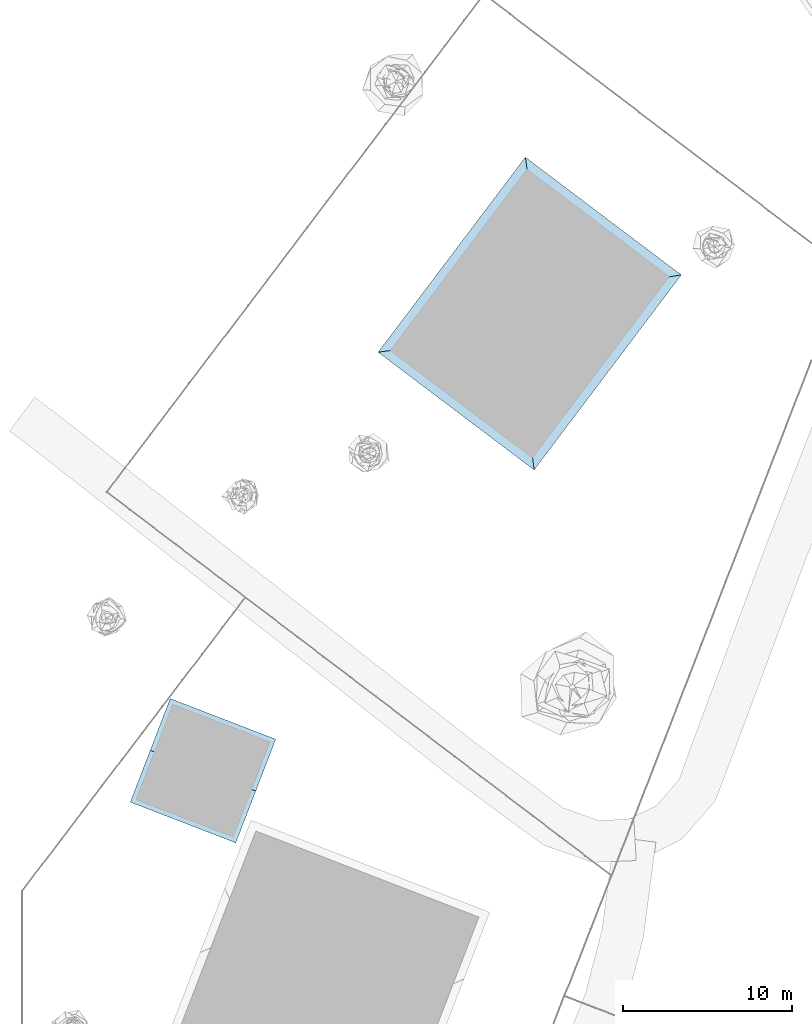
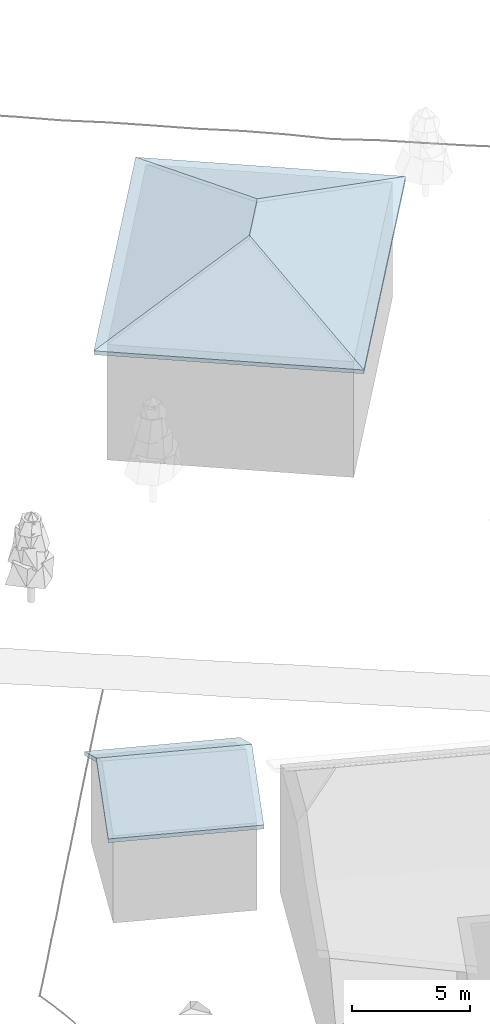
# Not in any storey, part 8 of 88: 2 roofs.
"""IFC4 building model written with IfcOpenShell, lengths in metres."""

from ifc_helpers import new_model, si_unit, origin_with_axes, place, context, subcontext, project, spatial, faceted_brep, element, save


model = new_model("IFC4")

# Units and contexts
model_context = context("Model", 3, precision=1e-05, world=origin_with_axes())
body_context = subcontext(model_context, "Body", "Model", "MODEL_VIEW")
ifc_project = project(units=[si_unit("LENGTHUNIT", "METRE"), si_unit("AREAUNIT", "SQUARE_METRE"), si_unit("VOLUMEUNIT", "CUBIC_METRE"), si_unit("PLANEANGLEUNIT", "RADIAN")], contexts=[model_context])

# Sites, building
site_1_placement = place(None, origin_with_axes())
site_1 = spatial("IfcSite", under=ifc_project, at=site_1_placement, Name="CH907857693633", CompositionType="ELEMENT")
site_2_placement = place(None, origin_with_axes())
site_2 = spatial("IfcSite", under=site_1, at=site_2_placement, Name="Buildings", CompositionType="ELEMENT")
building_1_placement = place(None, origin_with_axes())
building_1 = spatial("IfcBuilding", under=site_2, at=building_1_placement, Name="Building_00CCDBD0", CompositionType="ELEMENT")

# Roof
roof_1_placement = place(building_1_placement, origin_with_axes())
element("IfcRoof", 1, at=roof_1_placement, inside=building_1, Name="Building_00CCDBD0_Roof", PredefinedType="NOTDEFINED", context=body_context, shape_type="Brep", body=[
    faceted_brep([(13.8480000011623, 105.25, 7.8567877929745), (13.1719999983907, 108.153999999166, 6.41288779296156), (12.5799999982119, 106.620000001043, 7.37478779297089), (9.45399999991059, 107.826000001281, 7.37478779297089), (8.77800000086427, 110.730000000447, 5.93288779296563), (8.18600000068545, 109.195999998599, 6.89278779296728), (8.77800000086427, 110.730000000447, 5.93288779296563), (9.45399999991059, 107.826000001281, 7.37478779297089), (10.0460000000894, 109.359999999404, 6.41288779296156), (11.9880000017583, 105.085999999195, 7.37478779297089), (12.6620000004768, 102.18200000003, 5.93288779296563), (13.2560000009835, 103.715999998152, 6.89278779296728), (12.6620000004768, 102.18200000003, 5.93288779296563), (11.9880000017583, 105.085999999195, 7.37478779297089), (11.3960000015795, 103.552000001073, 6.41288779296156), (6.41000000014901, 104.594000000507, 5.93288779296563), (8.86199999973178, 106.291999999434, 7.37478779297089), (7.00400000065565, 106.127999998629, 6.89278779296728), (13.8480000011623, 105.25, 7.8567877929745), (13.8480000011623, 105.25, 7.65478779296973), (14.4400000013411, 106.784000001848, 6.89278779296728), (15.0320000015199, 108.31799999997, 5.73288779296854), (15.0320000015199, 108.31799999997, 5.93288779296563), (14.4400000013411, 106.784000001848, 6.69478779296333), (11.9059999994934, 109.524000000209, 5.83088779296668), (8.77800000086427, 110.730000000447, 5.93288779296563), (11.9059999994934, 109.524000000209, 5.93288779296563), (11.9059999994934, 109.524000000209, 5.83088779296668), (11.9059999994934, 109.524000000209, 5.73288779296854), (8.77800000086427, 110.730000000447, 5.73288779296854), (8.77800000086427, 110.730000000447, 5.93288779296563), (11.9059999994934, 109.524000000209, 5.83088779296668), (8.77800000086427, 110.730000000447, 5.73288779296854), (11.9059999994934, 109.524000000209, 5.83088779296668), (11.9059999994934, 109.524000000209, 5.93288779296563), (15.0320000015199, 108.31799999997, 5.93288779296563), (11.9059999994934, 109.524000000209, 5.83088779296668), (15.0320000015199, 108.31799999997, 5.73288779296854), (11.9059999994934, 109.524000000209, 5.73288779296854), (15.0320000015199, 108.31799999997, 5.73288779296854), (11.9059999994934, 109.524000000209, 5.83088779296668), (15.0320000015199, 108.31799999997, 5.93288779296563), (8.77800000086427, 110.730000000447, 5.93288779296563), (7.59600000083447, 107.662000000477, 7.65478779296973), (8.18600000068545, 109.195999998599, 6.89278779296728), (7.59600000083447, 107.662000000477, 7.65478779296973), (8.77800000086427, 110.730000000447, 5.93288779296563), (8.18600000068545, 109.195999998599, 6.69488779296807), (6.41000000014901, 104.594000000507, 5.93288779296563), (7.00400000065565, 106.127999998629, 6.69488779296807), (6.41200000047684, 104.594000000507, 5.73288779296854), (7.00400000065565, 106.127999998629, 6.69488779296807), (6.41000000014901, 104.594000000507, 5.93288779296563), (7.59600000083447, 107.662000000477, 7.65478779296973), (7.00400000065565, 106.127999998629, 6.89278779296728), (7.59600000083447, 107.662000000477, 7.65478779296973), (6.41000000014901, 104.594000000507, 5.93288779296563), (7.59600000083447, 107.662000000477, 7.65478779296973), (7.00400000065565, 106.127999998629, 6.89278779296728), (7.59600000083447, 107.662000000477, 7.8567877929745), (9.5379999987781, 103.388000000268, 5.93288779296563), (9.5379999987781, 103.388000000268, 5.83088779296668), (12.6620000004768, 102.18200000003, 5.93288779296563), (9.5379999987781, 103.388000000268, 5.83088779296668), (12.6620000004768, 102.18200000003, 5.73288779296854), (12.6620000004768, 102.18200000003, 5.93288779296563), (12.6620000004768, 102.18200000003, 5.73288779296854), (9.5379999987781, 103.388000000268, 5.83088779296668), (9.5379999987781, 103.388000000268, 5.73288779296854), (9.5379999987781, 103.388000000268, 5.83088779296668), (6.41000000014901, 104.594000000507, 5.93288779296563), (6.41200000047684, 104.594000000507, 5.73288779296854), (9.5379999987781, 103.388000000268, 5.73288779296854), (9.5379999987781, 103.388000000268, 5.83088779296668), (6.41200000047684, 104.594000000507, 5.73288779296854), (6.41000000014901, 104.594000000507, 5.93288779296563), (9.5379999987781, 103.388000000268, 5.83088779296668), (9.5379999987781, 103.388000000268, 5.93288779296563), (13.2560000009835, 103.715999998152, 6.69478779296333), (12.6620000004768, 102.18200000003, 5.93288779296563), (12.6620000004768, 102.18200000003, 5.73288779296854), (13.8480000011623, 105.25, 7.65478779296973), (13.2560000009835, 103.715999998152, 6.89278779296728), (12.6620000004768, 102.18200000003, 5.93288779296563), (12.6620000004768, 102.18200000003, 5.93288779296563), (13.2560000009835, 103.715999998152, 6.69478779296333), (13.8480000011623, 105.25, 7.65478779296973), (13.2560000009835, 103.715999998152, 6.89278779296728), (13.8480000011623, 105.25, 7.65478779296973), (13.8480000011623, 105.25, 7.8567877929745), (12.5799999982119, 106.620000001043, 7.1747877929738), (11.3139999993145, 107.989999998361, 6.69478779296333), (13.1719999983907, 108.153999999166, 6.21288779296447), (11.9059999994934, 109.524000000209, 5.73288779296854), (13.1719999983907, 108.153999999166, 6.21288779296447), (11.3139999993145, 107.989999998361, 6.69478779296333), (11.3139999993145, 107.989999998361, 6.69478779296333), (10.7219999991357, 106.456000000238, 7.65478779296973), (9.45399999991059, 107.826000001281, 7.1747877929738), (10.1279999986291, 104.921999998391, 6.69478779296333), (10.7219999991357, 106.456000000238, 7.65478779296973), (11.9880000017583, 105.085999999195, 7.1747877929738), (8.86199999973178, 106.291999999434, 7.1747877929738), (10.1279999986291, 104.921999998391, 6.69478779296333), (8.26999999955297, 104.758000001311, 6.21288779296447), (9.5379999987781, 103.388000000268, 5.73288779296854), (8.26999999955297, 104.758000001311, 6.21288779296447), (10.1279999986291, 104.921999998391, 6.69478779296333), (11.3139999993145, 107.989999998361, 6.89278779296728), (11.9059999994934, 109.524000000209, 5.93288779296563), (10.0460000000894, 109.359999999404, 6.41288779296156), (11.3139999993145, 107.989999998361, 6.89278779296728), (10.7219999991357, 106.456000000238, 7.8567877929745), (12.5799999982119, 106.620000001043, 7.37478779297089), (13.8480000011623, 105.25, 7.65478779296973), (13.1719999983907, 108.153999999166, 6.21288779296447), (14.4400000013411, 106.784000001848, 6.69478779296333), (8.77800000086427, 110.730000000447, 5.73288779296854), (9.45399999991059, 107.826000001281, 7.1747877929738), (8.18600000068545, 109.195999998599, 6.69488779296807), (9.45399999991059, 107.826000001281, 7.1747877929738), (8.77800000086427, 110.730000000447, 5.73288779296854), (10.0460000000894, 109.359999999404, 6.21288779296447), (10.1279999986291, 104.921999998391, 6.89278779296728), (10.7219999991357, 106.456000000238, 7.8567877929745), (8.86199999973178, 106.291999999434, 7.37478779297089), (10.1279999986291, 104.921999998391, 6.89278779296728), (9.5379999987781, 103.388000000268, 5.93288779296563), (11.3960000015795, 103.552000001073, 6.41288779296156), (11.9880000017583, 105.085999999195, 7.1747877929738), (12.6620000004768, 102.18200000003, 5.73288779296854), (11.3960000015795, 103.552000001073, 6.21288779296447), (12.6620000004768, 102.18200000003, 5.73288779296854), (11.9880000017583, 105.085999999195, 7.1747877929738), (13.2560000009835, 103.715999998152, 6.69478779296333), (6.41200000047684, 104.594000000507, 5.73288779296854), (8.86199999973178, 106.291999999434, 7.1747877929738), (8.26999999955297, 104.758000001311, 6.21288779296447), (15.0320000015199, 108.31799999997, 5.93288779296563), (11.9059999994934, 109.524000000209, 5.93288779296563), (13.1719999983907, 108.153999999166, 6.41288779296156), (8.77800000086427, 110.730000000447, 5.73288779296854), (11.9059999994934, 109.524000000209, 5.73288779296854), (10.0460000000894, 109.359999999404, 6.21288779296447), (7.59600000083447, 107.662000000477, 7.8567877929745), (10.7219999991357, 106.456000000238, 7.8567877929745), (9.45399999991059, 107.826000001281, 7.37478779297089), (13.8480000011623, 105.25, 7.8567877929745), (10.7219999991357, 106.456000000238, 7.8567877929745), (11.9880000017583, 105.085999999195, 7.37478779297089), (13.8480000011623, 105.25, 7.65478779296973), (10.7219999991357, 106.456000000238, 7.65478779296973), (12.5799999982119, 106.620000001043, 7.1747877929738), (7.59600000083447, 107.662000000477, 7.65478779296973), (10.7219999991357, 106.456000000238, 7.65478779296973), (8.86199999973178, 106.291999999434, 7.1747877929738), (6.41000000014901, 104.594000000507, 5.93288779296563), (9.5379999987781, 103.388000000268, 5.93288779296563), (8.26999999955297, 104.758000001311, 6.41288779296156), (12.6620000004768, 102.18200000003, 5.73288779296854), (9.5379999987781, 103.388000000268, 5.73288779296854), (11.3960000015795, 103.552000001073, 6.21288779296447), (13.8480000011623, 105.25, 7.8567877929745), (11.9880000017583, 105.085999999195, 7.37478779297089), (13.2560000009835, 103.715999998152, 6.89278779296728), (10.7219999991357, 106.456000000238, 7.8567877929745), (10.1279999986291, 104.921999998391, 6.89278779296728), (11.9880000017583, 105.085999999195, 7.37478779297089), (10.7219999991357, 106.456000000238, 7.65478779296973), (13.8480000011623, 105.25, 7.65478779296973), (11.9880000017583, 105.085999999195, 7.1747877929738), (10.1279999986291, 104.921999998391, 6.69478779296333), (11.9880000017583, 105.085999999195, 7.1747877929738), (11.3960000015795, 103.552000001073, 6.21288779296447), (7.59600000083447, 107.662000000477, 7.8567877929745), (9.45399999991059, 107.826000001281, 7.37478779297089), (8.18600000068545, 109.195999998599, 6.89278779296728), (10.7219999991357, 106.456000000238, 7.8567877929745), (11.3139999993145, 107.989999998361, 6.89278779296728), (9.45399999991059, 107.826000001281, 7.37478779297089), (10.7219999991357, 106.456000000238, 7.65478779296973), (7.59600000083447, 107.662000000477, 7.65478779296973), (9.45399999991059, 107.826000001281, 7.1747877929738), (11.3139999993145, 107.989999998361, 6.69478779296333), (9.45399999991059, 107.826000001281, 7.1747877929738), (10.0460000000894, 109.359999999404, 6.21288779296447), (15.0320000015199, 108.31799999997, 5.93288779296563), (13.1719999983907, 108.153999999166, 6.41288779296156), (14.4400000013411, 106.784000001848, 6.89278779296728), (11.3139999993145, 107.989999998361, 6.89278779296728), (12.5799999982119, 106.620000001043, 7.37478779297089), (13.1719999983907, 108.153999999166, 6.41288779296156), (13.1719999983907, 108.153999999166, 6.41288779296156), (11.9059999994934, 109.524000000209, 5.93288779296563), (11.3139999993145, 107.989999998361, 6.89278779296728), (11.9059999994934, 109.524000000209, 5.73288779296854), (15.0320000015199, 108.31799999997, 5.73288779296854), (13.1719999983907, 108.153999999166, 6.21288779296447), (13.1719999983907, 108.153999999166, 6.21288779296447), (13.8480000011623, 105.25, 7.65478779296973), (12.5799999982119, 106.620000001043, 7.1747877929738), (10.7219999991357, 106.456000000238, 7.65478779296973), (11.3139999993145, 107.989999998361, 6.69478779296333), (12.5799999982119, 106.620000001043, 7.1747877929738), (10.7219999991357, 106.456000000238, 7.8567877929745), (13.8480000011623, 105.25, 7.8567877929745), (12.5799999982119, 106.620000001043, 7.37478779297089), (11.9059999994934, 109.524000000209, 5.93288779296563), (8.77800000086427, 110.730000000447, 5.93288779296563), (10.0460000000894, 109.359999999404, 6.41288779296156), (9.45399999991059, 107.826000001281, 7.37478779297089), (11.3139999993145, 107.989999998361, 6.89278779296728), (10.0460000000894, 109.359999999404, 6.41288779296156), (11.9059999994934, 109.524000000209, 5.73288779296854), (11.3139999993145, 107.989999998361, 6.69478779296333), (10.0460000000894, 109.359999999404, 6.21288779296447), (9.5379999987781, 103.388000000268, 5.73288779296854), (10.1279999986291, 104.921999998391, 6.69478779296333), (11.3960000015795, 103.552000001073, 6.21288779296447), (10.7219999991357, 106.456000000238, 7.8567877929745), (7.59600000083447, 107.662000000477, 7.8567877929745), (8.86199999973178, 106.291999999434, 7.37478779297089), (8.26999999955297, 104.758000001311, 6.41288779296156), (9.5379999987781, 103.388000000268, 5.93288779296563), (10.1279999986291, 104.921999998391, 6.89278779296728), (10.1279999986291, 104.921999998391, 6.89278779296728), (8.86199999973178, 106.291999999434, 7.37478779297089), (8.26999999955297, 104.758000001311, 6.41288779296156), (11.9880000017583, 105.085999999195, 7.37478779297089), (10.1279999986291, 104.921999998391, 6.89278779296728), (11.3960000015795, 103.552000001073, 6.41288779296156), (9.5379999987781, 103.388000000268, 5.93288779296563), (12.6620000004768, 102.18200000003, 5.93288779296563), (11.3960000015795, 103.552000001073, 6.41288779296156), (10.7219999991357, 106.456000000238, 7.65478779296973), (10.1279999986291, 104.921999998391, 6.69478779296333), (8.86199999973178, 106.291999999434, 7.1747877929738), (7.59600000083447, 107.662000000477, 7.65478779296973), (8.86199999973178, 106.291999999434, 7.1747877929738), (7.00400000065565, 106.127999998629, 6.69488779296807), (8.86199999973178, 106.291999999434, 7.37478779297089), (6.41000000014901, 104.594000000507, 5.93288779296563), (8.26999999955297, 104.758000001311, 6.41288779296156), (9.5379999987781, 103.388000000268, 5.73288779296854), (6.41200000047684, 104.594000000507, 5.73288779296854), (8.26999999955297, 104.758000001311, 6.21288779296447), (11.9880000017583, 105.085999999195, 7.1747877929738), (13.8480000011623, 105.25, 7.65478779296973), (13.2560000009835, 103.715999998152, 6.69478779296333), (7.59600000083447, 107.662000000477, 7.65478779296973), (7.59600000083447, 107.662000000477, 7.8567877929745), (8.18600000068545, 109.195999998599, 6.89278779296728), (8.77800000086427, 110.730000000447, 5.93288779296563), (8.77800000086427, 110.730000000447, 5.73288779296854), (8.18600000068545, 109.195999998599, 6.69488779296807), (9.45399999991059, 107.826000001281, 7.1747877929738), (7.59600000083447, 107.662000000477, 7.65478779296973), (8.18600000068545, 109.195999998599, 6.69488779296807), (13.1719999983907, 108.153999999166, 6.41288779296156), (13.8480000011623, 105.25, 7.8567877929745), (14.4400000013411, 106.784000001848, 6.89278779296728), (13.8480000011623, 105.25, 7.65478779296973), (15.0320000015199, 108.31799999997, 5.93288779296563), (14.4400000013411, 106.784000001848, 6.89278779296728), (8.86199999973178, 106.291999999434, 7.37478779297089), (7.59600000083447, 107.662000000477, 7.8567877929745), (7.00400000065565, 106.127999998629, 6.89278779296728), (15.0320000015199, 108.31799999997, 5.93288779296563), (13.8480000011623, 105.25, 7.65478779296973), (14.4400000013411, 106.784000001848, 6.69478779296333), (13.1719999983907, 108.153999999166, 6.21288779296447), (15.0320000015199, 108.31799999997, 5.73288779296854), (14.4400000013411, 106.784000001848, 6.69478779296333), (8.86199999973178, 106.291999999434, 7.1747877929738), (6.41200000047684, 104.594000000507, 5.73288779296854), (7.00400000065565, 106.127999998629, 6.69488779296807)], [[[0, 1, 2]], [[3, 4, 5]], [[6, 7, 8]], [[9, 10, 11]], [[12, 13, 14]], [[15, 16, 17]], [[18, 19, 20]], [[21, 22, 23]], [[24, 25, 26]], [[27, 28, 29]], [[30, 31, 32]], [[33, 34, 35]], [[36, 37, 38]], [[39, 40, 41]], [[42, 43, 44]], [[45, 46, 47]], [[48, 49, 50]], [[51, 52, 53]], [[54, 55, 56]], [[57, 58, 59]], [[60, 61, 62]], [[63, 64, 65]], [[66, 67, 68]], [[69, 70, 71]], [[72, 73, 74]], [[75, 76, 77]], [[78, 79, 80]], [[81, 82, 83]], [[84, 85, 86]], [[87, 88, 89]], [[90, 91, 92]], [[93, 94, 95]], [[96, 97, 98]], [[99, 100, 101]], [[102, 103, 104]], [[105, 106, 107]], [[108, 109, 110]], [[111, 112, 113]], [[114, 115, 116]], [[117, 118, 119]], [[120, 121, 122]], [[123, 124, 125]], [[126, 127, 128]], [[129, 130, 131]], [[132, 133, 134]], [[135, 136, 137]], [[138, 139, 140]], [[141, 142, 143]], [[144, 145, 146]], [[147, 148, 149]], [[150, 151, 152]], [[153, 154, 155]], [[156, 157, 158]], [[159, 160, 161]], [[162, 163, 164]], [[165, 166, 167]], [[168, 169, 170]], [[171, 172, 173]], [[174, 175, 176]], [[177, 178, 179]], [[180, 181, 182]], [[183, 184, 185]], [[186, 187, 188]], [[189, 190, 191]], [[192, 193, 194]], [[195, 196, 197]], [[198, 199, 200]], [[201, 202, 203]], [[204, 205, 206]], [[207, 208, 209]], [[210, 211, 212]], [[213, 214, 215]], [[216, 217, 218]], [[219, 220, 221]], [[222, 223, 224]], [[225, 226, 227]], [[228, 229, 230]], [[231, 232, 233]], [[234, 235, 236]], [[237, 238, 239]], [[240, 241, 242]], [[243, 244, 245]], [[246, 247, 248]], [[249, 250, 251]], [[252, 253, 254]], [[255, 256, 257]], [[258, 259, 260]], [[261, 262, 263]], [[264, 265, 266]], [[267, 268, 269]], [[270, 271, 272]], [[273, 274, 275]]]),
])

# Building
building_2_placement = place(None, origin_with_axes())
building_2 = spatial("IfcBuilding", under=site_2, at=building_2_placement, Name="Building_A8D2A459", CompositionType="ELEMENT")

# Roof
roof_2_placement = place(building_2_placement, origin_with_axes())
element("IfcRoof", 2, at=roof_2_placement, inside=building_2, Name="Building_A8D2A459_Roof", PredefinedType="NOTDEFINED", context=body_context, shape_type="Brep", body=[
    faceted_brep([(31.015000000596, 134.526999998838, 12.4143877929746), (34.4329999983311, 139.311000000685, 9.98258779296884), (30.4149999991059, 138.662999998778, 11.1984877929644), (31.015000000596, 134.526999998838, 12.4143877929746), (34.6929999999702, 130.045000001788, 9.98258779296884), (35.0329999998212, 135.175000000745, 11.1984877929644), (31.015000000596, 134.526999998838, 12.4143877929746), (25.4530000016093, 137.02100000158, 9.98258779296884), (26.0529999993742, 132.885000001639, 11.1984877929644), (29.3729999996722, 132.355000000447, 12.4143877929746), (25.7129999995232, 127.756999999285, 9.98258779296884), (29.8530000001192, 128.311000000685, 11.1984877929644), (29.3729999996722, 132.355000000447, 12.4143877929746), (26.0529999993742, 132.885000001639, 11.1984877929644), (25.2329999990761, 131.798999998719, 11.1984877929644), (31.015000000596, 134.526999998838, 12.4143877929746), (29.3729999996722, 132.355000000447, 12.4143877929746), (30.6730000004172, 129.396999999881, 11.1984877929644), (34.4329999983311, 139.311000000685, 9.88058779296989), (29.8150000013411, 142.798999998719, 9.98258779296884), (34.4329999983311, 139.311000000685, 9.98258779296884), (34.4329999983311, 139.311000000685, 9.88058779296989), (34.4329999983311, 139.311000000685, 9.78258779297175), (29.8150000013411, 142.798999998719, 9.78258779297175), (29.8150000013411, 142.798999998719, 9.98258779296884), (34.4329999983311, 139.311000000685, 9.88058779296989), (29.8150000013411, 142.798999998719, 9.78258779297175), (34.4329999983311, 139.311000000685, 9.88058779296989), (34.4329999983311, 139.311000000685, 9.98258779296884), (39.0529999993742, 135.822999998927, 9.98248779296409), (34.4329999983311, 139.311000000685, 9.88058779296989), (39.0529999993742, 135.822999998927, 9.78258779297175), (34.4329999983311, 139.311000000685, 9.78258779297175), (39.0529999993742, 135.822999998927, 9.78258779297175), (34.4329999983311, 139.311000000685, 9.88058779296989), (39.0529999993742, 135.822999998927, 9.98248779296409), (21.0929999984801, 131.245000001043, 9.98258779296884), (25.4530000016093, 137.02100000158, 9.88058779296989), (21.0929999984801, 131.245000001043, 9.78258779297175), (25.4530000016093, 137.02100000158, 9.78258779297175), (21.0929999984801, 131.245000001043, 9.78258779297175), (25.4530000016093, 137.02100000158, 9.88058779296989), (25.4530000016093, 137.02100000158, 9.88058779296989), (21.0929999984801, 131.245000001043, 9.98258779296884), (25.4530000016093, 137.02100000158, 9.98258779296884), (29.8150000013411, 142.798999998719, 9.78258779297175), (25.4530000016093, 137.02100000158, 9.88058779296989), (29.8150000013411, 142.798999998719, 9.98258779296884), (25.4530000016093, 137.02100000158, 9.98258779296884), (29.8150000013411, 142.798999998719, 9.98258779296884), (25.4530000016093, 137.02100000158, 9.88058779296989), (25.4530000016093, 137.02100000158, 9.88058779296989), (29.8150000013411, 142.798999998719, 9.78258779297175), (25.4530000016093, 137.02100000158, 9.78258779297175), (25.7129999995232, 127.756999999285, 9.78258779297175), (25.7129999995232, 127.756999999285, 9.88058779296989), (21.0929999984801, 131.245000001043, 9.78258779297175), (25.7129999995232, 127.756999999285, 9.88058779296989), (30.3330000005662, 124.269000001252, 9.78258779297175), (30.3330000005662, 124.269000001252, 9.98258779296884), (21.0929999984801, 131.245000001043, 9.98258779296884), (25.7129999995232, 127.756999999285, 9.88058779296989), (25.7129999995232, 127.756999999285, 9.98258779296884), (25.7129999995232, 127.756999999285, 9.98258779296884), (25.7129999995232, 127.756999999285, 9.88058779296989), (30.3330000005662, 124.269000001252, 9.98258779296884), (30.3330000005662, 124.269000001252, 9.78258779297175), (25.7129999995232, 127.756999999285, 9.88058779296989), (25.7129999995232, 127.756999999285, 9.78258779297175), (25.7129999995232, 127.756999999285, 9.88058779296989), (21.0929999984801, 131.245000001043, 9.98258779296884), (21.0929999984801, 131.245000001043, 9.78258779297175), (30.3330000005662, 124.269000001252, 9.78258779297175), (34.6929999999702, 130.045000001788, 9.78258779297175), (34.6929999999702, 130.045000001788, 9.88058779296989), (30.3330000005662, 124.269000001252, 9.98258779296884), (34.6929999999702, 130.045000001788, 9.88058779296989), (34.6929999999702, 130.045000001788, 9.98258779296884), (39.0529999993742, 135.822999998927, 9.98248779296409), (34.6929999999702, 130.045000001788, 9.98258779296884), (34.6929999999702, 130.045000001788, 9.88058779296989), (34.6929999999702, 130.045000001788, 9.88058779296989), (39.0529999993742, 135.822999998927, 9.78258779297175), (39.0529999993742, 135.822999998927, 9.98248779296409), (39.0529999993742, 135.822999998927, 9.78258779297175), (34.6929999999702, 130.045000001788, 9.88058779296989), (34.6929999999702, 130.045000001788, 9.78258779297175), (34.6929999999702, 130.045000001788, 9.88058779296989), (30.3330000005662, 124.269000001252, 9.98258779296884), (30.3330000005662, 124.269000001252, 9.78258779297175), (31.015000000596, 134.526999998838, 12.214387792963), (34.4329999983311, 139.311000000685, 9.78258779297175), (35.0329999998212, 135.175000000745, 10.9984877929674), (31.015000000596, 134.526999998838, 12.214387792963), (34.6929999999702, 130.045000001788, 9.78258779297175), (30.6730000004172, 129.396999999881, 10.9984877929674), (31.015000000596, 134.526999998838, 12.214387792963), (25.4530000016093, 137.02100000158, 9.78258779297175), (30.4149999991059, 138.662999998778, 10.9984877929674), (29.3729999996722, 132.355000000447, 12.214387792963), (25.7129999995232, 127.756999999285, 9.78258779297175), (25.2329999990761, 131.798999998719, 10.9984877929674), (31.015000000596, 134.526999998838, 12.214387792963), (29.3729999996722, 132.355000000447, 12.214387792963), (26.0529999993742, 132.885000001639, 10.9984877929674), (29.3729999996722, 132.355000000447, 12.214387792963), (30.6730000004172, 129.396999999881, 10.9984877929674), (29.8530000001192, 128.311000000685, 10.9984877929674), (39.0529999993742, 135.822999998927, 9.98248779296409), (35.0329999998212, 135.175000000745, 11.1984877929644), (34.6929999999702, 130.045000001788, 9.98258779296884), (34.6929999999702, 130.045000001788, 9.98258779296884), (30.6730000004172, 129.396999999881, 11.1984877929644), (30.3330000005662, 124.269000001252, 9.98258779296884), (29.8150000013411, 142.798999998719, 9.98258779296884), (25.4530000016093, 137.02100000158, 9.98258779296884), (30.4149999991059, 138.662999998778, 11.1984877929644), (21.0929999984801, 131.245000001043, 9.78258779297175), (25.4530000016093, 137.02100000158, 9.78258779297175), (26.0529999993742, 132.885000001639, 10.9984877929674), (30.6730000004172, 129.396999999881, 10.9984877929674), (34.6929999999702, 130.045000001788, 9.78258779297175), (30.3330000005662, 124.269000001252, 9.78258779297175), (35.0329999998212, 135.175000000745, 10.9984877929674), (39.0529999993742, 135.822999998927, 9.78258779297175), (34.6929999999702, 130.045000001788, 9.78258779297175), (39.0529999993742, 135.822999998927, 9.98248779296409), (34.4329999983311, 139.311000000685, 9.98258779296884), (35.0329999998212, 135.175000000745, 11.1984877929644), (30.3330000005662, 124.269000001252, 9.98258779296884), (29.8530000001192, 128.311000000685, 11.1984877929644), (25.7129999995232, 127.756999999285, 9.98258779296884), (25.7129999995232, 127.756999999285, 9.98258779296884), (25.2329999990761, 131.798999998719, 11.1984877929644), (21.0929999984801, 131.245000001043, 9.98258779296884), (29.8150000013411, 142.798999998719, 9.78258779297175), (34.4329999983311, 139.311000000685, 9.78258779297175), (30.4149999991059, 138.662999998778, 10.9984877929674), (25.2329999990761, 131.798999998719, 10.9984877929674), (25.7129999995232, 127.756999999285, 9.78258779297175), (21.0929999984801, 131.245000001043, 9.78258779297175), (29.8530000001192, 128.311000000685, 10.9984877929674), (30.3330000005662, 124.269000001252, 9.78258779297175), (25.7129999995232, 127.756999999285, 9.78258779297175), (25.4530000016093, 137.02100000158, 9.98258779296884), (21.0929999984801, 131.245000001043, 9.98258779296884), (26.0529999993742, 132.885000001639, 11.1984877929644), (29.3729999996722, 132.355000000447, 12.4143877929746), (31.015000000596, 134.526999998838, 12.4143877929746), (26.0529999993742, 132.885000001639, 11.1984877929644), (25.4530000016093, 137.02100000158, 9.78258779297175), (31.015000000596, 134.526999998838, 12.214387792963), (26.0529999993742, 132.885000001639, 10.9984877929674), (21.0929999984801, 131.245000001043, 9.78258779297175), (26.0529999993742, 132.885000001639, 10.9984877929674), (25.2329999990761, 131.798999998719, 10.9984877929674), (34.6929999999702, 130.045000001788, 9.98258779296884), (31.015000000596, 134.526999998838, 12.4143877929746), (30.6730000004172, 129.396999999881, 11.1984877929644), (30.3330000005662, 124.269000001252, 9.98258779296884), (30.6730000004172, 129.396999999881, 11.1984877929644), (29.8530000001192, 128.311000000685, 11.1984877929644), (29.3729999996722, 132.355000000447, 12.214387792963), (31.015000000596, 134.526999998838, 12.214387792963), (30.6730000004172, 129.396999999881, 10.9984877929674), (34.4329999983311, 139.311000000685, 9.98258779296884), (29.8150000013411, 142.798999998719, 9.98258779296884), (30.4149999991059, 138.662999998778, 11.1984877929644), (25.4530000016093, 137.02100000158, 9.98258779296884), (31.015000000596, 134.526999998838, 12.4143877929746), (30.4149999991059, 138.662999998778, 11.1984877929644), (34.4329999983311, 139.311000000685, 9.78258779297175), (31.015000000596, 134.526999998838, 12.214387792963), (30.4149999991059, 138.662999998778, 10.9984877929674), (25.4530000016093, 137.02100000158, 9.78258779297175), (29.8150000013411, 142.798999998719, 9.78258779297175), (30.4149999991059, 138.662999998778, 10.9984877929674), (25.7129999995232, 127.756999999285, 9.98258779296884), (29.3729999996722, 132.355000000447, 12.4143877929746), (25.2329999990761, 131.798999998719, 11.1984877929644), (26.0529999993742, 132.885000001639, 11.1984877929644), (21.0929999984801, 131.245000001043, 9.98258779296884), (25.2329999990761, 131.798999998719, 11.1984877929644), (26.0529999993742, 132.885000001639, 10.9984877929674), (29.3729999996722, 132.355000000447, 12.214387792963), (25.2329999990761, 131.798999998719, 10.9984877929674), (34.4329999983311, 139.311000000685, 9.98258779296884), (31.015000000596, 134.526999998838, 12.4143877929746), (35.0329999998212, 135.175000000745, 11.1984877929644), (34.4329999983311, 139.311000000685, 9.78258779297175), (39.0529999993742, 135.822999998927, 9.78258779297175), (35.0329999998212, 135.175000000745, 10.9984877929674), (34.6929999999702, 130.045000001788, 9.78258779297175), (31.015000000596, 134.526999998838, 12.214387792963), (35.0329999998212, 135.175000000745, 10.9984877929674), (30.6730000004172, 129.396999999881, 11.1984877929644), (29.3729999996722, 132.355000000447, 12.4143877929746), (29.8530000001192, 128.311000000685, 11.1984877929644), (25.7129999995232, 127.756999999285, 9.78258779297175), (29.3729999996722, 132.355000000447, 12.214387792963), (29.8530000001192, 128.311000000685, 10.9984877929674), (30.6730000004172, 129.396999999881, 10.9984877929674), (30.3330000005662, 124.269000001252, 9.78258779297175), (29.8530000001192, 128.311000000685, 10.9984877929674)], [[[0, 1, 2]], [[3, 4, 5]], [[6, 7, 8]], [[9, 10, 11]], [[12, 13, 14]], [[15, 16, 17]], [[18, 19, 20]], [[21, 22, 23]], [[24, 25, 26]], [[27, 28, 29]], [[30, 31, 32]], [[33, 34, 35]], [[36, 37, 38]], [[39, 40, 41]], [[42, 43, 44]], [[45, 46, 47]], [[48, 49, 50]], [[51, 52, 53]], [[54, 55, 56]], [[57, 58, 59]], [[60, 61, 62]], [[63, 64, 65]], [[66, 67, 68]], [[69, 70, 71]], [[72, 73, 74]], [[75, 76, 77]], [[78, 79, 80]], [[81, 82, 83]], [[84, 85, 86]], [[87, 88, 89]], [[90, 91, 92]], [[93, 94, 95]], [[96, 97, 98]], [[99, 100, 101]], [[102, 103, 104]], [[105, 106, 107]], [[108, 109, 110]], [[111, 112, 113]], [[114, 115, 116]], [[117, 118, 119]], [[120, 121, 122]], [[123, 124, 125]], [[126, 127, 128]], [[129, 130, 131]], [[132, 133, 134]], [[135, 136, 137]], [[138, 139, 140]], [[141, 142, 143]], [[144, 145, 146]], [[147, 148, 149]], [[150, 151, 152]], [[153, 154, 155]], [[156, 157, 158]], [[159, 160, 161]], [[162, 163, 164]], [[165, 166, 167]], [[168, 169, 170]], [[171, 172, 173]], [[174, 175, 176]], [[177, 178, 179]], [[180, 181, 182]], [[183, 184, 185]], [[186, 187, 188]], [[189, 190, 191]], [[192, 193, 194]], [[195, 196, 197]], [[198, 199, 200]], [[201, 202, 203]]]),
])

save(model, "model.ifc")
